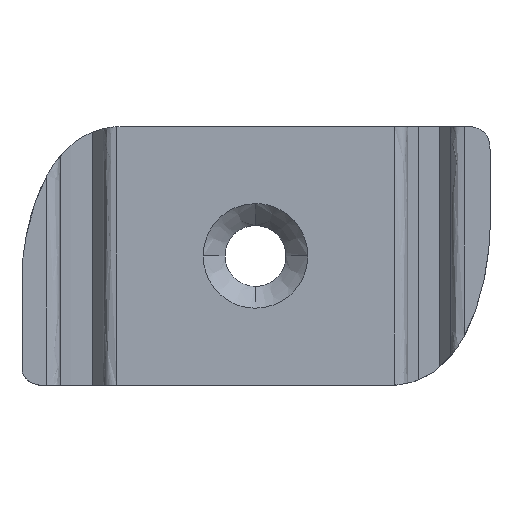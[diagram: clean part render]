
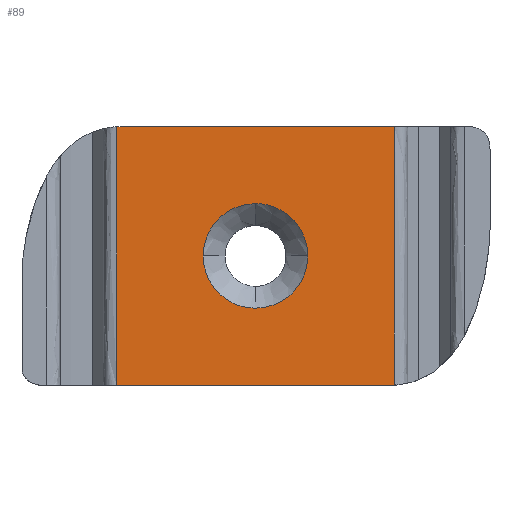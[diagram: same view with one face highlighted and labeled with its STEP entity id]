
A CAD part, top view. The second image highlights one B-rep face of the part: STEP entity #89.
In plain terms, the highlighted planar face has unit normal (0, 0, 1).
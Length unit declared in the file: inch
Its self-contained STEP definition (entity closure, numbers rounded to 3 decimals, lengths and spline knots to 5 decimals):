
#89=ADVANCED_FACE('',(#191,#192),#193,.T.);
#191=FACE_OUTER_BOUND('',#498,.T.);
#192=FACE_BOUND('',#499,.T.);
#193=PLANE('',#500);
#498=EDGE_LOOP('',(#879,#880,#881,#882,#883,#884));
#499=EDGE_LOOP('',(#885,#886,#887,#888));
#500=AXIS2_PLACEMENT_3D('',#889,#890,#891);
#879=ORIENTED_EDGE('',*,*,#1058,.T.);
#880=ORIENTED_EDGE('',*,*,#1106,.T.);
#881=ORIENTED_EDGE('',*,*,#1078,.T.);
#882=ORIENTED_EDGE('',*,*,#1107,.T.);
#883=ORIENTED_EDGE('',*,*,#1074,.F.);
#884=ORIENTED_EDGE('',*,*,#1101,.T.);
#885=ORIENTED_EDGE('',*,*,#1108,.F.);
#886=ORIENTED_EDGE('',*,*,#1093,.F.);
#887=ORIENTED_EDGE('',*,*,#1099,.F.);
#888=ORIENTED_EDGE('',*,*,#1109,.F.);
#889=CARTESIAN_POINT('',(0.67669,0.0,0.0));
#890=DIRECTION('',(0.0,0.0,1.0));
#891=DIRECTION('',(1.0,0.0,0.0));
#1058=EDGE_CURVE('',#1215,#1213,#1216,.T.);
#1074=EDGE_CURVE('',#1240,#1235,#1242,.T.);
#1078=EDGE_CURVE('',#1248,#1246,#1249,.T.);
#1093=EDGE_CURVE('',#1271,#1269,#1273,.T.);
#1099=EDGE_CURVE('',#1279,#1271,#1281,.T.);
#1101=EDGE_CURVE('',#1240,#1215,#1283,.T.);
#1106=EDGE_CURVE('',#1213,#1248,#1289,.T.);
#1107=EDGE_CURVE('',#1246,#1235,#1290,.T.);
#1108=EDGE_CURVE('',#1269,#1291,#1292,.T.);
#1109=EDGE_CURVE('',#1291,#1279,#1293,.T.);
#1213=VERTEX_POINT('',#1505);
#1215=VERTEX_POINT('',#1518);
#1216=B_SPLINE_CURVE_WITH_KNOTS('',3,(#1519,#1520,#1521,#1522),.UNSPECIFIED.,.F.,.F.,(4,4),(0.0,0.06858),.UNSPECIFIED.);
#1235=VERTEX_POINT('',#1554);
#1240=VERTEX_POINT('',#1571);
#1242=LINE('',#1576,#1577);
#1246=VERTEX_POINT('',#1584);
#1248=VERTEX_POINT('',#1591);
#1249=LINE('',#1592,#1593);
#1269=VERTEX_POINT('',#1639);
#1271=VERTEX_POINT('',#1642);
#1273=B_SPLINE_CURVE_WITH_KNOTS('',3,(#1645,#1646,#1647,#1648,#1649,#1650,#1651,#1652,#1653,#1654,#1655,#1656,#1657,#1658),.UNSPECIFIED.,.F.,.F.,(4,2,2,2,2,2,4),(0.0,0.05791,0.11552,0.11825,0.17471,0.23447,0.2365),.UNSPECIFIED.);
#1279=VERTEX_POINT('',#1676);
#1281=B_SPLINE_CURVE_WITH_KNOTS('',3,(#1679,#1680,#1681,#1682,#1683,#1684,#1685,#1686,#1687,#1688,#1689,#1690),.UNSPECIFIED.,.F.,.F.,(4,2,2,2,2,4),(0.00047,0.05944,0.11869,0.13391,0.17794,0.23739),.UNSPECIFIED.);
#1283=LINE('',#1692,#1693);
#1289=LINE('',#1702,#1703);
#1290=B_SPLINE_CURVE_WITH_KNOTS('',3,(#1704,#1705,#1706,#1707),.UNSPECIFIED.,.F.,.F.,(4,4),(0.0,0.06859),.UNSPECIFIED.);
#1291=VERTEX_POINT('',#1708);
#1292=B_SPLINE_CURVE_WITH_KNOTS('',3,(#1709,#1710,#1711,#1712,#1713,#1714,#1715,#1716,#1717,#1718,#1719,#1720,#1721,#1722),.UNSPECIFIED.,.F.,.F.,(4,2,2,2,2,2,4),(0.0,0.03144,0.06209,0.1184,0.12128,0.17889,0.23679),.UNSPECIFIED.);
#1293=B_SPLINE_CURVE_WITH_KNOTS('',3,(#1723,#1724,#1725,#1726,#1727,#1728,#1729,#1730,#1731,#1732,#1733,#1734,#1735,#1736),.UNSPECIFIED.,.F.,.F.,(4,2,2,2,2,2,4),(0.0,0.00204,0.06181,0.11825,0.121,0.1786,0.23651),.UNSPECIFIED.);
#1505=CARTESIAN_POINT('',(1.0793,0.00057,0.0));
#1518=CARTESIAN_POINT('',(1.06192,0.,0.0));
#1519=CARTESIAN_POINT('',(1.06192,0.,0.0));
#1520=CARTESIAN_POINT('',(1.08478,0.,0.0));
#1521=CARTESIAN_POINT('',(1.10735,0.00288,0.0));
#1522=CARTESIAN_POINT('',(1.1293,0.00928,0.0));
#1554=CARTESIAN_POINT('',(0.27409,0.74953,0.0));
#1571=CARTESIAN_POINT('',(0.27409,0.0,0.0));
#1576=CARTESIAN_POINT('',(0.27409,0.0,0.0));
#1577=VECTOR('',#1849,1.0);
#1584=CARTESIAN_POINT('',(0.28403,0.75,0.0));
#1591=CARTESIAN_POINT('',(1.0793,0.75,0.0));
#1592=CARTESIAN_POINT('',(0.27409,0.75,0.0));
#1593=VECTOR('',#1850,1.0);
#1639=CARTESIAN_POINT('',(0.67669,0.22355,0.0));
#1642=CARTESIAN_POINT('',(0.5252,0.37505,0.0));
#1645=CARTESIAN_POINT('',(0.5252,0.37505,0.0));
#1646=CARTESIAN_POINT('',(0.5252,0.35575,0.0));
#1647=CARTESIAN_POINT('',(0.529,0.3361,0.0));
#1648=CARTESIAN_POINT('',(0.54345,0.30041,0.0));
#1649=CARTESIAN_POINT('',(0.5543,0.28372,0.0));
#1650=CARTESIAN_POINT('',(0.56826,0.26925,0.0));
#1651=CARTESIAN_POINT('',(0.5689,0.26859,0.0));
#1652=CARTESIAN_POINT('',(0.58287,0.25462,0.0));
#1653=CARTESIAN_POINT('',(0.59898,0.24363,0.0));
#1654=CARTESIAN_POINT('',(0.6345,0.22816,0.0));
#1655=CARTESIAN_POINT('',(0.65474,0.22383,0.0));
#1656=CARTESIAN_POINT('',(0.67534,0.22356,0.0));
#1657=CARTESIAN_POINT('',(0.67602,0.22355,0.0));
#1658=CARTESIAN_POINT('',(0.67669,0.22355,0.0));
#1676=CARTESIAN_POINT('',(0.67669,0.52656,0.0));
#1679=CARTESIAN_POINT('',(0.67669,0.52656,0.0));
#1680=CARTESIAN_POINT('',(0.65704,0.52656,0.0));
#1681=CARTESIAN_POINT('',(0.637,0.52261,0.0));
#1682=CARTESIAN_POINT('',(0.60058,0.50755,0.0));
#1683=CARTESIAN_POINT('',(0.58353,0.49615,0.0));
#1684=CARTESIAN_POINT('',(0.56598,0.47859,0.0));
#1685=CARTESIAN_POINT('',(0.56255,0.47481,0.0));
#1686=CARTESIAN_POINT('',(0.54997,0.4594,0.0));
#1687=CARTESIAN_POINT('',(0.54226,0.44647,0.0));
#1688=CARTESIAN_POINT('',(0.52909,0.4146,0.0));
#1689=CARTESIAN_POINT('',(0.5252,0.39472,0.0));
#1690=CARTESIAN_POINT('',(0.5252,0.37505,0.0));
#1692=CARTESIAN_POINT('',(0.27409,0.0,0.0));
#1693=VECTOR('',#1862,1.0);
#1702=CARTESIAN_POINT('',(1.0793,0.0,0.0));
#1703=VECTOR('',#1866,1.0);
#1704=CARTESIAN_POINT('',(0.29147,0.7501,0.0));
#1705=CARTESIAN_POINT('',(0.26861,0.7501,0.0));
#1706=CARTESIAN_POINT('',(0.24604,0.74723,0.0));
#1707=CARTESIAN_POINT('',(0.22409,0.74082,0.0));
#1708=CARTESIAN_POINT('',(0.82819,0.37505,0.0));
#1709=CARTESIAN_POINT('',(0.67669,0.22355,0.0));
#1710=CARTESIAN_POINT('',(0.68717,0.22355,0.0));
#1711=CARTESIAN_POINT('',(0.69771,0.22464,0.0));
#1712=CARTESIAN_POINT('',(0.71796,0.2289,0.0));
#1713=CARTESIAN_POINT('',(0.7278,0.23204,0.0));
#1714=CARTESIAN_POINT('',(0.75437,0.24361,0.0));
#1715=CARTESIAN_POINT('',(0.77044,0.25456,0.0));
#1716=CARTESIAN_POINT('',(0.78442,0.26853,0.0));
#1717=CARTESIAN_POINT('',(0.7851,0.26922,0.0));
#1718=CARTESIAN_POINT('',(0.79909,0.28373,0.0));
#1719=CARTESIAN_POINT('',(0.80994,0.30041,0.0));
#1720=CARTESIAN_POINT('',(0.8244,0.3361,0.0));
#1721=CARTESIAN_POINT('',(0.82819,0.35575,0.0));
#1722=CARTESIAN_POINT('',(0.82819,0.37505,0.0));
#1723=CARTESIAN_POINT('',(0.82819,0.37505,0.0));
#1724=CARTESIAN_POINT('',(0.82819,0.37574,0.0));
#1725=CARTESIAN_POINT('',(0.82819,0.37642,0.0));
#1726=CARTESIAN_POINT('',(0.82791,0.39702,0.0));
#1727=CARTESIAN_POINT('',(0.82358,0.41726,0.0));
#1728=CARTESIAN_POINT('',(0.80811,0.45278,0.0));
#1729=CARTESIAN_POINT('',(0.79713,0.46888,0.0));
#1730=CARTESIAN_POINT('',(0.78315,0.48285,0.0));
#1731=CARTESIAN_POINT('',(0.7825,0.48349,0.0));
#1732=CARTESIAN_POINT('',(0.76802,0.49746,0.0));
#1733=CARTESIAN_POINT('',(0.75134,0.50831,0.0));
#1734=CARTESIAN_POINT('',(0.71565,0.52276,0.0));
#1735=CARTESIAN_POINT('',(0.696,0.52656,0.0));
#1736=CARTESIAN_POINT('',(0.67669,0.52656,0.0));
#1849=DIRECTION('',(0.0,1.0,0.0));
#1850=DIRECTION('',(-1.0,-0.0,0.0));
#1862=DIRECTION('',(1.0,0.0,0.0));
#1866=DIRECTION('',(0.0,1.0,0.0));
